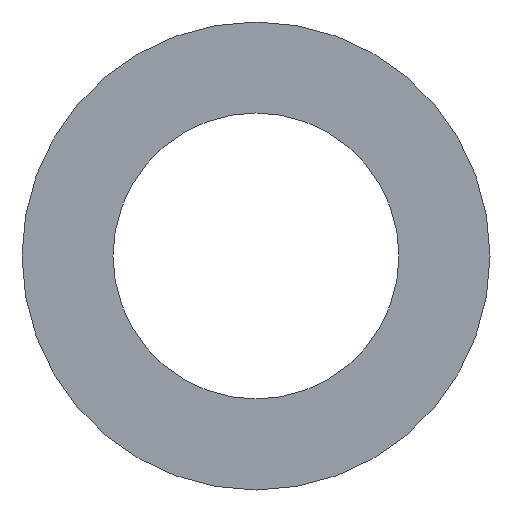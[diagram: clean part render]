
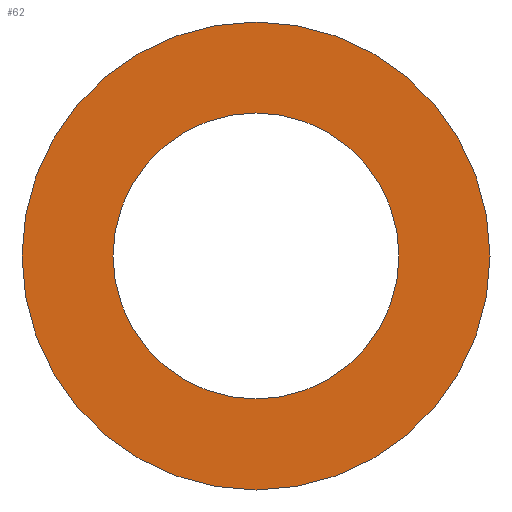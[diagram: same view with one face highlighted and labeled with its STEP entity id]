
A CAD part, front view. The second image highlights one B-rep face of the part: STEP entity #62.
In plain terms, the highlighted planar face has unit normal (0, -1, 0).
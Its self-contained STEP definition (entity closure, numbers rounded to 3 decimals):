
#20=PLANE('',#83);
#26=ORIENTED_EDGE('',*,*,#30,.T.);
#27=ORIENTED_EDGE('',*,*,#32,.F.);
#30=EDGE_CURVE('',#34,#34,#38,.T.);
#32=EDGE_CURVE('',#36,#36,#40,.T.);
#34=VERTEX_POINT('',#106);
#36=VERTEX_POINT('',#111);
#38=CIRCLE('',#78,49.5);
#40=CIRCLE('',#81,81.);
#46=EDGE_LOOP('',(#26));
#47=EDGE_LOOP('',(#27));
#54=FACE_BOUND('',#46,.T.);
#55=FACE_BOUND('',#47,.T.);
#62=ADVANCED_FACE('',(#54,#55),#20,.F.);
#78=AXIS2_PLACEMENT_3D('',#105,#89,#90);
#81=AXIS2_PLACEMENT_3D('',#110,#95,#96);
#83=AXIS2_PLACEMENT_3D('',#114,#99,#100);
#89=DIRECTION('',(0.,1.,0.));
#90=DIRECTION('',(1.,0.,0.));
#95=DIRECTION('',(0.,1.,0.));
#96=DIRECTION('',(1.,0.,0.));
#99=DIRECTION('',(0.,1.,0.));
#100=DIRECTION('',(0.,0.,1.));
#105=CARTESIAN_POINT('',(0.,-1.5,0.));
#106=CARTESIAN_POINT('',(49.5,-1.5,0.));
#110=CARTESIAN_POINT('',(0.,-1.5,0.));
#111=CARTESIAN_POINT('',(81.,-1.5,0.));
#114=CARTESIAN_POINT('',(0.,-1.5,0.));
